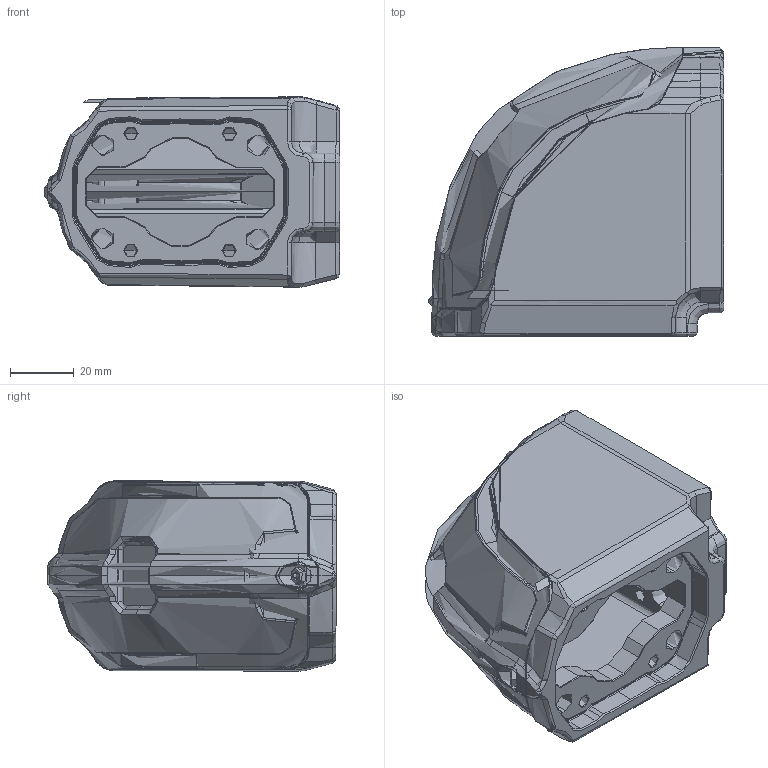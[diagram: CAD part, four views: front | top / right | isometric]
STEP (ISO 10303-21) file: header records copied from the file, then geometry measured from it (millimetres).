
FILE_DESCRIPTION (( 'STEP AP203' ), '1' );
FILE_NAME ('TP.045.5300.STEP', '2026-09-30T08:08:50', ( '' ), ( '' ), 'SwSTEP 2.0', 'SolidWorks 2015', '' );
FILE_SCHEMA (( 'CONFIG_CONTROL_DESIGN' ));
Products named in the file (4): TP.045.5300; TP.045.Kapak; kapak vida
Assembly tree (4 placements, depth 2):
  TP.045.5300
    TP.045.5300
    TP.045.Kapak
    kapak vida  x2
Bounding box: 92.59 x 90.35 x 59.53 mm (x, y, z)
Topology: 2 solids, 11 shells, 3177 faces, 7937 edges, 4748 vertices
Faces by surface type: bspline 2359, plane 336, cylinder 330, torus 69, cone 67, sphere 16
Entity records: 231851 total; most frequent: CARTESIAN_POINT 176026, ORIENTED_EDGE 15689, EDGE_CURVE 7856, B_SPLINE_CURVE_WITH_KNOTS 5947, VERTEX_POINT 4708, DIRECTION 3896, EDGE_LOOP 3191, ADVANCED_FACE 3149
